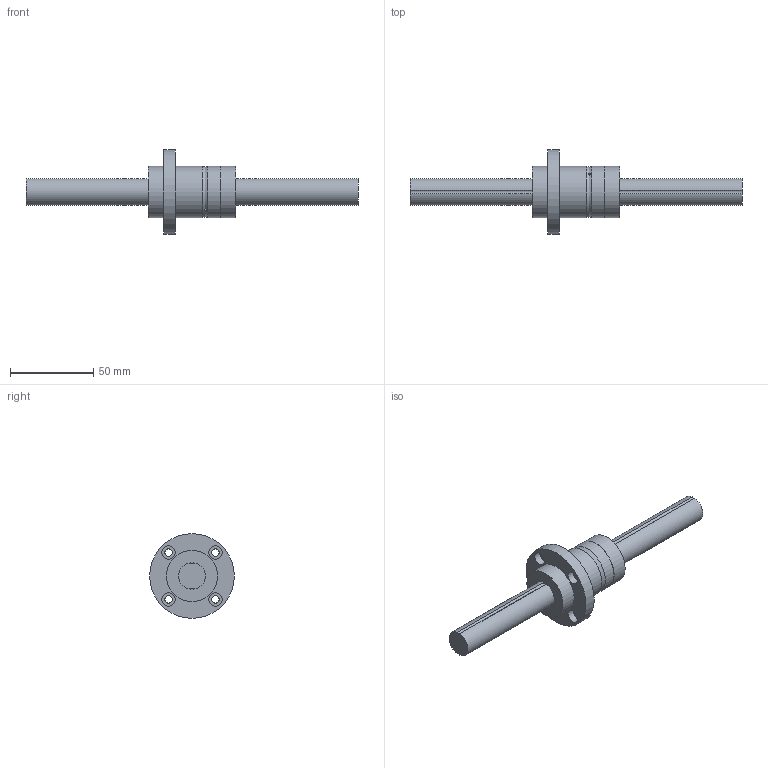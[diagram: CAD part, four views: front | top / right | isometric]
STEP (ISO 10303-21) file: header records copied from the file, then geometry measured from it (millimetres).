
FILE_DESCRIPTION((''),'2;1');
FILE_NAME('C:\Documents and Settings\土屋\My Documents\土屋移動用フォルダ\製品 (図面)\カタログ用3D\ボールスプライン\BSPF\BSPF16.stp','2015-02-23T13:31:37',('y'),(''),'Autodesk Inventor 11','Autodesk Inventor 11','');
FILE_SCHEMA(('AUTOMOTIVE_DESIGN { 1 0 10303 214 1 1 1 1 }'));
Length unit declared in the file: millimetre
Products named in the file (3): BSPF16; BSP16軸; BSPF16ナット
Assembly tree (2 placements, depth 2):
  BSPF16
    BSP16軸
    BSPF16ナット
Bounding box: 200 x 51 x 51 mm (x, y, z)
Volume: 76937.8 mm3; surface area: 23080.5 mm2
Topology: 2 solids, 2 shells, 37 faces, 76 edges, 52 vertices
Faces by surface type: bspline 15, cylinder 14, plane 8
Full cylindrical faces by diameter (mm): 1.5 x1, 30.8 x2, 31 x2, 51 x1
Entity records: 1237 total; most frequent: CARTESIAN_POINT 470, DIRECTION 150, ORIENTED_EDGE 108, EDGE_LOOP 72, AXIS2_PLACEMENT_3D 71, EDGE_CURVE 54, VERTEX_POINT 46, CIRCLE 44
